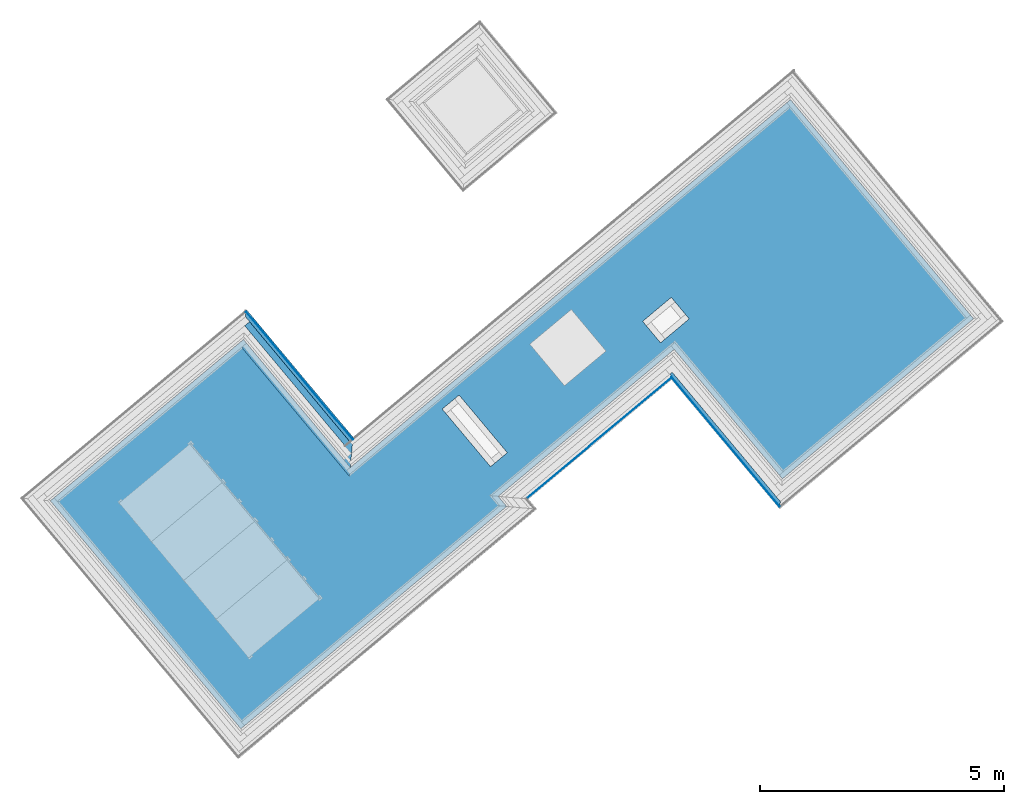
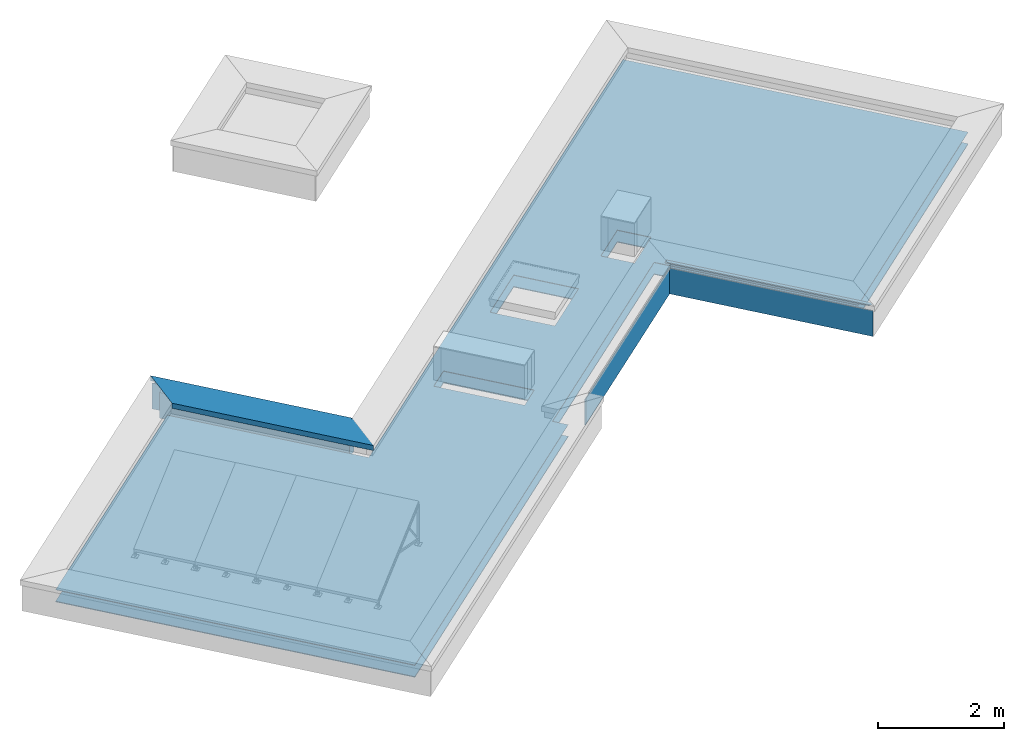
# One storey, part 4 of 13: 9 building element parts, 1 opening, 4 elements without a shape of their own.
"""IFC4 building model written with IfcOpenShell, lengths in metres."""

from ifc_helpers import new_model, entity, si_unit, converted_unit, derived_unit, direction, frame, origin_with_axes, place, context, subcontext, project, spatial, polygons, material, type_object, element, aggregate, save


model = new_model("IFC4")

# Units and contexts
model_context = context("Model", 3, precision=1e-05, world=origin_with_axes(), true_north=direction((0.0, 1.0)))
body_context = subcontext(model_context, "Body", "Model", "MODEL_VIEW")
ifc_project = project(units=[si_unit("LENGTHUNIT", "METRE"), si_unit("AREAUNIT", "SQUARE_METRE"), si_unit("VOLUMEUNIT", "CUBIC_METRE"), converted_unit("PLANEANGLEUNIT", "DEGREE", entity("IfcPlaneAngleMeasure", 0.0174532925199), si_unit("PLANEANGLEUNIT", "RADIAN"), dimensions=[0, 0, 0, 0, 0, 0, 0]), converted_unit("TIMEUNIT", "Year", entity("IfcTimeMeasure", 31556926.0), si_unit("TIMEUNIT", "SECOND"), dimensions=[0, 0, 1, 0, 0, 0, 0]), si_unit("MASSUNIT", "GRAM", prefix="KILO"), si_unit("THERMODYNAMICTEMPERATUREUNIT", "DEGREE_CELSIUS"), si_unit("LUMINOUSINTENSITYUNIT", "LUMEN"), si_unit("ENERGYUNIT", "JOULE", prefix="MEGA"), derived_unit("THERMALCONDUCTANCEUNIT", [(si_unit("POWERUNIT", "WATT"), 1), (si_unit("LENGTHUNIT", "METRE"), -1), (si_unit("THERMODYNAMICTEMPERATUREUNIT", "KELVIN"), -1)]), derived_unit("SPECIFICHEATCAPACITYUNIT", [(si_unit("ENERGYUNIT", "JOULE"), 1), (si_unit("MASSUNIT", "GRAM", prefix="KILO"), -1), (si_unit("THERMODYNAMICTEMPERATUREUNIT", "KELVIN"), -1)]), derived_unit("MASSDENSITYUNIT", [(si_unit("MASSUNIT", "GRAM", prefix="KILO"), 1), (si_unit("VOLUMEUNIT", "CUBIC_METRE"), -1)])], contexts=[model_context])

# Site, building, storey
site_placement = place(None, frame((-0.00153261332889, -0.00661245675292, 0.0), z_axis=(0.0, 0.0, 1.0), x_axis=(1.0, 0.0, 0.0)))
site = spatial("IfcSite", under=ifc_project, at=site_placement, Name="Gelände", CompositionType="ELEMENT")
building_placement = place(site_placement, origin_with_axes())
building = spatial("IfcBuilding", under=site, at=building_placement, Name="Gebäude", CompositionType="ELEMENT")
storey_placement = place(building_placement, frame((0.0, 0.0, 11.84), z_axis=(0.0, 0.0, 1.0), x_axis=(1.0, 0.0, 0.0)))
storey = spatial("IfcBuildingStorey", under=building, at=storey_placement, Name="DA", CompositionType="ELEMENT", Elevation=11.84)

# Wall, building element parts
wall_type = type_object("IfcWallType", Name="Individuelles Profil 574 x 610", PredefinedType="NOTDEFINED")
wall_1_placement = place(storey_placement, frame((-3.16803107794, 21.4249524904, 0.0), z_axis=(0.0, 0.0, 1.0), x_axis=(0.641209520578, -0.767365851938, 0.0)))
wall_1 = element("IfcWall", 1, at=wall_1_placement, inside=storey, type_object=wall_type, Name="Wand-005", PredefinedType="NOTDEFINED")
ifc_material_1 = material(Name="Zementputz")
building_element_part_1_placement = place(wall_1_placement, origin_with_axes())
building_element_part_1 = element("IfcBuildingElementPart", 2, at=building_element_part_1_placement, material=ifc_material_1, Name="Zementputz", PredefinedType="NOTDEFINED", context=body_context, shape_type="Tessellation", body=[
    polygons([(-0.199999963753, 0.214999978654, 0.498822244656), (-0.199999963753, 0.214999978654, 0.5), (3.2179191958, 0.214999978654, 0.5), (3.2179191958, 0.214999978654, 0.498822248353), (3.2179191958, 0.214999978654, 0.491006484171), (3.2179191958, 0.214999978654, 0.488695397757), (3.2179191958, 0.214999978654, 0.235000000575), (3.2179191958, 0.214999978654, 0.0), (-0.199999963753, 0.214999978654, 0.0), (-0.199999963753, 0.214999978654, 0.235000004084), (-0.199999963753, 0.214999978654, 0.488695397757), (-0.199999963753, 0.214999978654, 0.491006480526), (-0.199999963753, 0.199999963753, 0.5), (-0.199999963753, 0.199999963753, 0.498822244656), (3.2179191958, 0.199999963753, 0.5), (3.2179191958, 0.199999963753, 0.498822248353), (3.2179191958, 0.199999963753, 0.491006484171), (3.2179191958, 0.199999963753, 0.488695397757), (3.2179191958, 0.199999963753, 0.235000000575), (3.2179191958, 0.199999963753, 0.0), (-0.199999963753, 0.199999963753, 0.0), (-0.199999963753, 0.199999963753, 0.235000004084), (-0.199999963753, 0.199999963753, 0.488695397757), (-0.199999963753, 0.199999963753, 0.491006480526)], [[[1, 2, 3, 4, 5, 6, 7, 8, 9, 10, 11, 12]], [[13, 2, 1, 14]], [[2, 13, 15, 3]], [[4, 3, 15, 16]], [[4, 16, 17, 5]], [[5, 17, 18, 6]], [[6, 18, 19, 7]], [[7, 19, 20, 8]], [[21, 9, 8, 20]], [[22, 10, 9, 21]], [[23, 11, 10, 22]], [[24, 12, 11, 23]], [[14, 1, 12, 24]], [[13, 14, 24, 23, 22, 21, 20, 19, 18, 17, 16, 15]]], closed=True),
])
ifc_material_2 = material(Name="Vollholz")
building_element_part_2_placement = place(wall_1_placement, origin_with_axes())
building_element_part_2 = element("IfcBuildingElementPart", 3, at=building_element_part_2_placement, material=ifc_material_2, Name="Vollholz", PredefinedType="NOTDEFINED", context=body_context, shape_type="Tessellation", body=[
    polygons([(-0.130124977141, 0.189996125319, 0.584015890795), (-0.130124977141, 0.130124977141, 0.584015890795), (-0.189985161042, 0.189984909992, 0.586106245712), (-0.130124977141, 0.130124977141, 0.575979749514), (-0.130124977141, 0.190039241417, 0.575979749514), (3.22792303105, 0.130124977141, 0.584015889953), (3.22793424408, 0.189984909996, 0.586106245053), (3.22792303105, 0.189996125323, 0.584015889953), (3.22787991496, 0.190039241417, 0.575979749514), (3.22786865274, 0.19005050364, 0.573880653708), (3.22783682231, 0.190082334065, 0.567947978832), (3.22779417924, 0.190124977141, 0.560000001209), (-0.130124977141, 0.190124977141, 0.560000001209), (-0.130124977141, 0.190082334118, 0.567947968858), (-0.130124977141, 0.190050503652, 0.573880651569), (-0.130124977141, 0.130124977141, 0.567947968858), (-0.130124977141, 0.130124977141, 0.560000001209), (3.22779417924, 0.130124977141, 0.560000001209), (3.22783682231, 0.130124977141, 0.567947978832), (3.22786865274, 0.130124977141, 0.573880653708), (3.22787991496, 0.130124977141, 0.575979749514), (-0.130124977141, 0.130124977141, 0.573880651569)], [[[1, 2, 3]], [[4, 2, 1, 5]], [[3, 2, 6, 7]], [[5, 1, 3, 7, 8, 9, 10, 11, 12, 13, 14, 15]], [[16, 17, 18, 19, 20, 21, 6, 2, 4, 22]], [[22, 4, 5, 15]], [[6, 8, 7]], [[6, 21, 9, 8]], [[21, 20, 10, 9]], [[20, 19, 11, 10]], [[19, 18, 12, 11]], [[18, 17, 13, 12]], [[17, 16, 14, 13]], [[16, 22, 15, 14]]], closed=True),
])
ifc_material_3 = material(Name="EPS 1")
building_element_part_3_placement = place(wall_1_placement, origin_with_axes())
building_element_part_3 = element("IfcBuildingElementPart", 4, at=building_element_part_3_placement, material=ifc_material_3, Name="EPS 1", PredefinedType="NOTDEFINED", context=body_context, shape_type="Tessellation", body=[
    polygons([(2.16626361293e-09, 0.19999996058, 0.498822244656), (2.16626361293e-09, 0.19999996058, 0.5), (3.2179191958, 0.19999996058, 0.5), (3.2179191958, 0.19999996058, 0.498822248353), (3.2179191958, 0.19999996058, 0.491006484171), (3.2179191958, 0.19999996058, 0.488695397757), (3.2179191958, 0.19999996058, 0.235000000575), (3.2179191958, 0.19999996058, 0.0), (2.16626006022e-09, 0.19999996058, 0.0), (2.16626361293e-09, 0.19999996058, 0.235000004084), (2.16626361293e-09, 0.19999996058, 0.488695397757), (2.16626361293e-09, 0.19999996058, 0.491006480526), (2.16659046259e-09, -2.16659223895e-09, 0.5), (2.16659046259e-09, -2.16659223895e-09, 0.498822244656), (3.2179191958, -2.16658158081e-09, 0.5), (3.2179191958, -2.16659401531e-09, 0.498822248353), (3.2179191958, -2.16659401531e-09, 0.491006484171), (3.2179191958, -2.16659401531e-09, 0.488695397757), (3.2179191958, -2.16659401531e-09, 0.235000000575), (3.2179191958, -2.16659223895e-09, 0.0), (2.16659046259e-09, -2.16659223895e-09, 0.0), (2.16659046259e-09, -2.16659223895e-09, 0.235000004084), (2.16659046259e-09, -2.16659223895e-09, 0.488695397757), (2.16659046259e-09, -2.16659223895e-09, 0.491006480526)], [[[1, 2, 3, 4, 5, 6, 7, 8, 9, 10, 11, 12]], [[13, 2, 1, 14]], [[2, 13, 15, 3]], [[4, 3, 15, 16]], [[4, 16, 17, 5]], [[5, 17, 18, 6]], [[6, 18, 19, 7]], [[7, 19, 20, 8]], [[21, 9, 8, 20]], [[22, 10, 9, 21]], [[23, 11, 10, 22]], [[24, 12, 11, 23]], [[14, 1, 12, 24]], [[13, 14, 24, 23, 22, 21, 20, 19, 18, 17, 16, 15]]], closed=True),
])
ifc_material_4 = material(Name="Stahl")
building_element_part_4_placement = place(wall_1_placement, origin_with_axes())
building_element_part_4 = element("IfcBuildingElementPart", 5, at=building_element_part_4_placement, material=ifc_material_4, Name="Stahl", PredefinedType="NOTDEFINED", context=body_context, shape_type="Tessellation", body=[
    polygons([(0.332051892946, -0.332051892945, 0.491006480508), (0.332051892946, -0.332051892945, 0.498822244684), (0.332051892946, -0.330698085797, 0.498822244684), (0.332051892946, -0.330698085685, 0.49100648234), (0.332051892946, -0.332051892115, 0.489652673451), (3.74805649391, -0.332051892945, 0.489652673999), (3.74670268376, -0.332051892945, 0.491006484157), (3.74861724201, -0.332051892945, 0.491006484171), (3.74861724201, -0.332051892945, 0.498822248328), (3.74997104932, -0.332051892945, 0.498822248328), (3.74997104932, -0.332051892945, 0.5), (3.74861724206, -0.332051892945, 0.5), (3.74861724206, -0.332051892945, 0.509050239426), (3.74861724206, -0.332051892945, 0.511361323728), (3.74861724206, -0.332051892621, 0.519224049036), (3.74861724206, -0.332051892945, 0.559999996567), (3.74861724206, -0.332051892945, 0.567947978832), (3.74861724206, -0.332051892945, 0.573880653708), (3.74861724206, -0.332051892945, 0.575979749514), (3.74861724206, -0.332051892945, 0.584015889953), (3.74861724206, -0.332051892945, 0.586106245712), (3.74861724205, -0.332051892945, 0.587937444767), (3.71254963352, -0.332051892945, 0.58924311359), (0.332051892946, -0.332051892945, 0.589243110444), (0.332051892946, -0.332051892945, 0.587937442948), (0.332051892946, -0.332051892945, 0.586106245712), (0.332051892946, -0.332051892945, 0.584015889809), (0.332051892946, -0.332051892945, 0.575979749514), (0.332051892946, -0.332051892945, 0.573880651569), (0.332051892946, -0.332051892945, 0.567947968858), (0.332051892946, -0.332051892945, 0.55999999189), (0.332051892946, -0.332051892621, 0.519224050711), (0.332051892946, -0.332051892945, 0.51136132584), (0.332051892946, -0.332051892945, 0.509050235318), (0.332051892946, -0.332051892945, 0.499999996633), (0.332051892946, -0.330698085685, 0.499999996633), (0.332051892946, -0.330698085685, 0.509050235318), (0.332051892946, -0.330698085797, 0.51136132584), (0.332051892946, -0.330698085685, 0.519224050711), (0.332051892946, -0.330698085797, 0.55999999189), (0.332051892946, -0.330698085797, 0.567947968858), (0.332051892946, -0.330698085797, 0.573880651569), (0.332051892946, -0.330698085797, 0.575979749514), (0.332051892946, -0.330698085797, 0.584015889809), (0.332051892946, -0.330698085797, 0.586106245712), (0.332051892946, -0.330698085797, 0.587937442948), (3.74861724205, -0.330698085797, 0.587937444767), (3.74861724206, -0.330698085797, 0.586106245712), (3.74861724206, -0.330698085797, 0.584015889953), (3.74861724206, -0.330698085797, 0.575979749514), (3.74861724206, -0.330698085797, 0.573880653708), (3.74861724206, -0.330698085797, 0.567947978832), (3.74861724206, -0.330698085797, 0.559999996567), (3.74861724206, -0.330698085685, 0.519224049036), (3.74861724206, -0.330698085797, 0.511361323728), (3.74861724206, -0.330698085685, 0.509050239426), (3.74861724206, -0.330698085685, 0.5), (3.74997104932, -0.330698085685, 0.5), (3.74997104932, -0.330698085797, 0.498822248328), (3.74861724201, -0.330698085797, 0.498822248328), (3.74861724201, -0.330698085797, 0.491006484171), (3.74670268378, -0.330698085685, 0.491006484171), (0.332051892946, -0.328783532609, 0.491006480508), (0.332051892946, -0.330137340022, 0.489652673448), (0.33109460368, -0.331094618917, 0.4886954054), (3.74901377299, -0.331094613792, 0.488695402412), (3.74670268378, -0.328783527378, 0.491006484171), (3.17864266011, 0.239276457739, 0.608570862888), (3.17864266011, 0.20184970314, 0.608570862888), (-0.201849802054, 0.201849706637, 0.608570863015), (3.17776635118, 0.202730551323, 0.608602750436), (3.17641890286, 0.202730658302, 0.608602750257), (3.1764188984, 0.241500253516, 0.610006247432), (-0.241500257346, 0.241500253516, 0.610006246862), (-0.20273064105, 0.202730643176, 0.608602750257), (0.332051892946, -0.294630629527, 0.589243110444), (-0.201849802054, 0.239276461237, 0.608570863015), (0.330698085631, -0.330698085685, 0.491006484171), (3.73979723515, -0.323792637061, 0.497911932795), (3.7408014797, -0.32288233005, 0.498822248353), (0.322882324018, -0.32288233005, 0.498822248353), (0.330698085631, -0.328783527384, 0.491006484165), (0.323792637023, -0.321878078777, 0.497911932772), (3.73979723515, -0.321878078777, 0.497911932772), (3.17788831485, 0.23992751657, 0.608598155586), (3.17788614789, 0.238040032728, 0.608598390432), (3.17776635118, 0.2029185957, 0.608602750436), (3.17641890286, 0.240097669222, 0.608602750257), (3.17641890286, 0.240152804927, 0.608602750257), (3.17641890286, 0.241500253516, 0.608602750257), (-0.24015053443, 0.241500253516, 0.573880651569), (-0.240150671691, 0.241500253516, 0.575979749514), (-0.240151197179, 0.241500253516, 0.584015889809), (-0.240151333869, 0.241500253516, 0.586106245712), (-0.240151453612, 0.241500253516, 0.587937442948), (-0.240152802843, 0.241500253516, 0.608570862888), (-0.240152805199, 0.241500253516, 0.608602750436), (-0.20273064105, 0.241500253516, 0.608602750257), (3.17641890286, 0.241500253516, 0.608570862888), (3.17641890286, 0.241500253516, 0.587938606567), (3.17641890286, 0.241500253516, 0.586106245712), (3.17641890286, 0.241500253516, 0.584015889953), (3.17641890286, 0.241500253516, 0.575979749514), (3.17641890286, 0.241500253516, 0.573880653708), (3.17641890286, 0.241500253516, 0.567947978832), (3.17641890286, 0.241500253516, 0.559999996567), (3.17641890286, 0.241500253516, 0.519224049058), (3.17641890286, 0.241500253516, 0.511361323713), (3.17641890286, 0.241500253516, 0.510007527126), (-0.239585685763, 0.241500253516, 0.510007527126), (-0.238231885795, 0.241500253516, 0.511361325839), (-0.240146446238, 0.241500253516, 0.51136132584), (-0.240146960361, 0.241500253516, 0.519224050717), (-0.240149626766, 0.241500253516, 0.55999999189), (-0.240150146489, 0.241500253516, 0.567947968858), (-0.20273064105, 0.240152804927, 0.608602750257), (3.17641890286, 0.240152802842, 0.608570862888), (-0.24015053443, 0.24015053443, 0.573880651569), (-0.240150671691, 0.240150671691, 0.575979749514), (-0.240151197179, 0.240151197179, 0.584015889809), (-0.240151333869, 0.240151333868, 0.586106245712), (-0.240151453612, 0.240151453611, 0.587937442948), (-0.240152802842, 0.240152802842, 0.608570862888), (-0.240152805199, 0.240152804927, 0.608602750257), (3.17641890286, 0.240151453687, 0.587938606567), (3.17641890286, 0.240151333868, 0.586106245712), (3.17641890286, 0.240151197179, 0.584015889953), (3.17641890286, 0.240150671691, 0.575979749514), (3.17641890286, 0.24015053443, 0.573880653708), (3.17641890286, 0.240150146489, 0.567947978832), (3.17641890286, 0.240149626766, 0.559999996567), (3.17641890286, 0.240146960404, 0.519224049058), (3.17641890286, 0.240146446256, 0.51136132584), (3.17641890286, 0.238231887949, 0.51136132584), (3.17641890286, 0.239585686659, 0.510007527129), (-0.240542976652, 0.240542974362, 0.509050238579), (3.17737617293, 0.240542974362, 0.509050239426), (-0.238231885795, 0.238231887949, 0.51136132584), (-0.238231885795, 0.240146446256, 0.511361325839), (-0.240146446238, 0.240146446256, 0.51136132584), (-0.240146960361, 0.240146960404, 0.519224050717), (-0.240149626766, 0.240149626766, 0.55999999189), (-0.240150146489, 0.240150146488, 0.567947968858), (-0.231373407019, 0.231373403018, 0.518219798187), (3.17777271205, 0.238231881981, 0.51136132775), (3.18463118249, 0.231373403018, 0.518219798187), (3.17777271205, 0.240146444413, 0.51136132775), (-0.231373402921, 0.233287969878, 0.518219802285), (-0.232283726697, 0.232283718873, 0.51922405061), (3.18563543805, 0.232283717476, 0.519224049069)], [[[1, 2, 3, 4]], [[1, 5, 6, 7, 8, 9, 10, 11, 12, 13, 14, 15, 16, 17, 18, 19, 20, 21, 22, 23, 24, 25, 26, 27, 28, 29, 30, 31, 32, 33, 34, 35, 2]], [[35, 36, 3, 2]], [[4, 3, 36, 37, 38, 39, 40, 41, 42, 43, 44, 45, 46, 47, 48, 49, 50, 51, 52, 53, 54, 55, 56, 57, 58, 59, 60, 61, 62]], [[5, 1, 4, 63, 64]], [[5, 65, 66, 6]], [[7, 6, 66, 67, 62]], [[8, 7, 62, 61]], [[9, 8, 61, 60]], [[10, 9, 60, 59]], [[11, 10, 59, 58]], [[12, 11, 58, 57]], [[13, 12, 57, 56]], [[14, 13, 56, 55]], [[15, 14, 55, 54]], [[16, 15, 54, 53]], [[17, 16, 53, 52]], [[18, 17, 52, 51]], [[19, 18, 51, 50]], [[20, 19, 50, 49]], [[21, 20, 49, 48]], [[22, 21, 48, 47]], [[22, 47, 68, 69, 23]], [[70, 24, 23, 69, 71, 72, 73, 74, 75]], [[25, 24, 76, 46]], [[26, 25, 46, 45]], [[27, 26, 45, 44]], [[28, 27, 44, 43]], [[42, 29, 28, 43]], [[41, 30, 29, 42]], [[31, 30, 41, 40]], [[31, 40, 39, 32]], [[38, 33, 32, 39]], [[37, 34, 33, 38]], [[36, 35, 34, 37]], [[46, 76, 77, 68, 47]], [[78, 4, 62, 79, 80, 81]], [[4, 78, 82, 63]], [[65, 64, 63, 82, 83, 84, 67, 66]], [[65, 5, 64]], [[79, 62, 67, 84]], [[71, 69, 68, 85, 86, 87]], [[76, 24, 70, 77]], [[72, 71, 87, 86, 85, 88]], [[72, 88, 89, 90, 73]], [[91, 92, 93, 94, 95, 96, 97, 98, 74, 73, 90, 99, 100, 101, 102, 103, 104, 105, 106, 107, 108, 109, 110, 111, 112, 113, 114, 115]], [[75, 74, 98, 116]], [[70, 75, 116, 77]], [[77, 116, 89, 88, 85, 68]], [[80, 79, 84]], [[83, 81, 80, 84]], [[82, 78, 81, 83]], [[89, 117, 99, 90]], [[118, 119, 92, 91]], [[92, 119, 120, 93]], [[120, 121, 94, 93]], [[121, 122, 95, 94]], [[122, 123, 96, 95]], [[96, 123, 124, 97]], [[97, 124, 116, 98]], [[125, 100, 99, 117]], [[126, 101, 100, 125]], [[126, 127, 102, 101]], [[127, 128, 103, 102]], [[129, 104, 103, 128]], [[129, 130, 105, 104]], [[130, 131, 106, 105]], [[131, 132, 107, 106]], [[133, 108, 107, 132]], [[134, 135, 109, 108, 133]], [[136, 110, 109, 137]], [[136, 138, 139, 111, 110]], [[139, 140, 112, 111]], [[140, 141, 113, 112]], [[141, 142, 114, 113]], [[142, 143, 115, 114]], [[143, 118, 91, 115]], [[141, 140, 139, 133, 132, 131, 130, 129, 128, 127, 126, 125, 117, 89, 116, 124, 123, 122, 121, 120, 119, 118, 143, 142]], [[144, 138, 136, 137, 135, 134, 145, 146]], [[135, 137, 109]], [[145, 134, 133, 147]], [[138, 144, 148, 139]], [[148, 149, 150, 147, 133, 139]], [[145, 147, 150, 146]], [[149, 144, 146, 150]], [[144, 149, 148]]], closed=True),
])
aggregate(wall_1, [building_element_part_1, building_element_part_2, building_element_part_3, building_element_part_4])

# Roof, opening, building element parts
roof_type = type_object("IfcRoofType", Name="Flachdach Kies Dachaufbau 360", PredefinedType="NOTDEFINED")
roof_placement = place(storey_placement, frame((-7.153028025, 17.8344643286, 0.0), z_axis=(0.0, 0.0, 1.0), x_axis=(0.76736582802, 0.641209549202, 0.0)))
roof = element("IfcRoof", 6, at=roof_placement, inside=storey, type_object=roof_type, Name="Dach-002", PredefinedType="NOTDEFINED")
opening_placement = place(roof_placement, frame((10.1581112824, -3.84416247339, 0.36), z_axis=(0.0, 0.0, 1.0), x_axis=(1.0, 0.0, 0.0)))
element("IfcOpeningElement", 7, at=opening_placement, cuts=roof, Name="DFenst-002", context=body_context, identifier="Reference", shape_type="Tessellation", body=[
    polygons([(-0.549139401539, -1.0998264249, 0.0), (0.549034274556, -1.09987890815, 0.0), (0.549034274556, -1.09987890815, 0.000999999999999), (-0.549139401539, -1.0998264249, 0.000999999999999), (-0.549139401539, -1.0998264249, -0.361), (0.549034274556, -1.09987890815, -0.361), (0.549086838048, -2.62416250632e-05, 0.0), (0.549086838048, -2.62416250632e-05, 0.000999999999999), (-0.549086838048, 2.62416250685e-05, 0.000999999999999), (-0.549086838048, 2.62416250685e-05, 0.0), (-0.549086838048, 2.62416250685e-05, -0.361), (0.549086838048, -2.62416250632e-05, -0.361)], [[[1, 2, 3, 4]], [[2, 1, 5, 6]], [[2, 7, 8, 3]], [[3, 8, 9, 4]], [[10, 1, 4, 9]], [[1, 10, 11, 5]], [[5, 11, 12, 6]], [[7, 2, 6, 12]], [[7, 10, 9, 8]], [[10, 7, 12, 11]]], closed=True),
])
ifc_material_5 = material(Name="Folie")
building_element_part_5_placement = place(roof_placement, origin_with_axes())
building_element_part_5 = element("IfcBuildingElementPart", 8, at=building_element_part_5_placement, material=ifc_material_5, Name="Folie", PredefinedType="NOTDEFINED", context=body_context, shape_type="Tessellation", body=[
    polygons([(7.1069283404, -5.81885664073, 0.235), (7.10697326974, -6.08743675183, 0.235), (-1.72136707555e-07, -6.09206489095, 0.235), (0.0, 0.0, 0.235), (5.16009951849, 0.0, 0.235), (5.16009951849, -3.41791933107, 0.235), (16.9223077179, -3.41791976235, 0.235), (16.9223296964, -9.27248425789, 0.235), (11.8084432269, -9.2788160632, 0.235), (11.8066322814, -5.82152738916, 0.235), (7.37613453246, -5.24986721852, 0.235), (7.8222728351, -5.24986723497, 0.235), (7.82227289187, -3.71028700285, 0.235), (7.37343532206, -3.70871416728, 0.235), (11.6804973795, -5.53633381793, 0.235), (12.4437771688, -5.5363338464, 0.235), (12.4449024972, -4.96363244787, 0.235), (11.6804974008, -4.96363241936, 0.235), (9.60902444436, -3.84413623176, 0.235), (9.60897188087, -4.94398889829, 0.235), (10.707145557, -4.94404138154, 0.235), (10.7071981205, -3.84418871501, 0.235), (7.1069283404, -5.81885664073, 0.24), (7.10697326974, -6.08743675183, 0.24), (-1.72136707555e-07, -6.09206489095, 0.24), (0.0, 0.0, 0.24), (5.16009951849, 0.0, 0.24), (5.16009951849, -3.41791933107, 0.24), (16.9223077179, -3.41791976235, 0.24), (16.9223296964, -9.27248425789, 0.24), (11.8084432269, -9.2788160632, 0.24), (11.8066322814, -5.82152738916, 0.24), (7.37613453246, -5.24986721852, 0.24), (7.8222728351, -5.24986723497, 0.24), (7.82227289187, -3.71028700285, 0.24), (7.37343532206, -3.70871416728, 0.24), (11.6804973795, -5.53633381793, 0.24), (12.4437771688, -5.5363338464, 0.24), (12.4449024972, -4.96363244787, 0.24), (11.6804974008, -4.96363241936, 0.24), (9.60902444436, -3.84413623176, 0.24), (9.60897188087, -4.94398889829, 0.24), (10.707145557, -4.94404138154, 0.24), (10.7071981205, -3.84418871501, 0.24)], [[[1, 2, 3, 4, 5, 6, 7, 8, 9, 10], [11, 12, 13, 14], [15, 16, 17, 18], [19, 20, 21, 22]], [[23, 24, 2, 1]], [[24, 25, 3, 2]], [[25, 26, 4, 3]], [[26, 27, 5, 4]], [[27, 28, 6, 5]], [[28, 29, 7, 6]], [[29, 30, 8, 7]], [[30, 31, 9, 8]], [[31, 32, 10, 9]], [[32, 23, 1, 10]], [[33, 34, 12, 11]], [[34, 35, 13, 12]], [[35, 36, 14, 13]], [[36, 33, 11, 14]], [[37, 38, 16, 15]], [[38, 39, 17, 16]], [[39, 40, 18, 17]], [[40, 37, 15, 18]], [[41, 42, 20, 19]], [[42, 43, 21, 20]], [[43, 44, 22, 21]], [[44, 41, 19, 22]], [[29, 28, 27, 26, 25, 24, 23, 32, 31, 30], [35, 34, 33, 36], [39, 38, 37, 40], [41, 44, 43, 42]]], closed=True),
])
building_element_part_6_placement = place(roof_placement, origin_with_axes())
building_element_part_6 = element("IfcBuildingElementPart", 9, at=building_element_part_6_placement, material=ifc_material_5, Name="Folie", PredefinedType="NOTDEFINED", context=body_context, shape_type="Tessellation", body=[
    polygons([(7.1069283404, -5.81885664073, 0.0), (7.10697326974, -6.08743675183, 0.0), (-1.72136707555e-07, -6.09206489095, 0.0), (0.0, 0.0, 0.0), (5.16009951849, 0.0, 0.0), (5.16009951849, -3.41791933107, 0.0), (16.9223077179, -3.41791976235, 0.0), (16.9223296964, -9.27248425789, 0.0), (11.8084432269, -9.2788160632, 0.0), (11.8066322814, -5.82152738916, 0.0), (7.37613453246, -5.24986721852, 0.0), (7.8222728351, -5.24986723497, 0.0), (7.82227289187, -3.71028700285, 0.0), (7.37343532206, -3.70871416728, 0.0), (11.6804973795, -5.53633381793, 0.0), (12.4437771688, -5.5363338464, 0.0), (12.4449024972, -4.96363244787, 0.0), (11.6804974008, -4.96363241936, 0.0), (9.60902444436, -3.84413623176, 0.0), (9.60897188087, -4.94398889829, 0.0), (10.707145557, -4.94404138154, 0.0), (10.7071981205, -3.84418871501, 0.0), (7.1069283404, -5.81885664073, 0.015), (7.10697326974, -6.08743675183, 0.015), (-1.72136707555e-07, -6.09206489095, 0.015), (0.0, 0.0, 0.015), (5.16009951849, 0.0, 0.015), (5.16009951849, -3.41791933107, 0.015), (16.9223077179, -3.41791976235, 0.015), (16.9223296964, -9.27248425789, 0.015), (11.8084432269, -9.2788160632, 0.015), (11.8066322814, -5.82152738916, 0.015), (7.37613453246, -5.24986721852, 0.015), (7.8222728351, -5.24986723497, 0.015), (7.82227289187, -3.71028700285, 0.015), (7.37343532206, -3.70871416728, 0.015), (11.6804973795, -5.53633381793, 0.015), (12.4437771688, -5.5363338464, 0.015), (12.4449024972, -4.96363244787, 0.015), (11.6804974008, -4.96363241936, 0.015), (9.60902444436, -3.84413623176, 0.015), (9.60897188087, -4.94398889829, 0.015), (10.707145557, -4.94404138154, 0.015), (10.7071981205, -3.84418871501, 0.015)], [[[1, 2, 3, 4, 5, 6, 7, 8, 9, 10], [11, 12, 13, 14], [15, 16, 17, 18], [19, 20, 21, 22]], [[1, 23, 24, 2]], [[2, 24, 25, 3]], [[3, 25, 26, 4]], [[4, 26, 27, 5]], [[5, 27, 28, 6]], [[6, 28, 29, 7]], [[7, 29, 30, 8]], [[8, 30, 31, 9]], [[9, 31, 32, 10]], [[10, 32, 23, 1]], [[11, 33, 34, 12]], [[12, 34, 35, 13]], [[13, 35, 36, 14]], [[14, 36, 33, 11]], [[15, 37, 38, 16]], [[16, 38, 39, 17]], [[17, 39, 40, 18]], [[18, 40, 37, 15]], [[41, 42, 20, 19]], [[42, 43, 21, 20]], [[43, 44, 22, 21]], [[44, 41, 19, 22]], [[29, 28, 27, 26, 25, 24, 23, 32, 31, 30], [35, 34, 33, 36], [39, 38, 37, 40], [41, 44, 43, 42]]], closed=True),
])
aggregate(roof, [building_element_part_5, building_element_part_6])

# Wall, building element parts
wall_2_placement = place(storey_placement, frame((5.6143951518, 20.6557540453, 0.0), z_axis=(0.0, 0.0, 1.0), x_axis=(0.641709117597, -0.766948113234, 0.0)))
wall_2 = element("IfcWall", 10, at=wall_2_placement, inside=storey, type_object=wall_type, Name="Wand-004", PredefinedType="NOTDEFINED")
building_element_part_7_placement = place(wall_2_placement, origin_with_axes())
building_element_part_7 = element("IfcBuildingElementPart", 11, at=building_element_part_7_placement, material=ifc_material_2, Name="Vollholz", PredefinedType="NOTDEFINED", context=body_context, shape_type="Tessellation", body=[
    polygons([(0.129855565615, -0.190124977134, 0.560000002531), (0.129940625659, -0.130124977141, 0.560000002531), (3.58755698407, -0.130124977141, 0.560000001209), (3.58755698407, -0.190124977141, 0.560000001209), (0.129855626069, -0.190082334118, 0.567947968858), (0.129940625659, -0.130124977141, 0.567947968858), (0.129940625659, -0.130124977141, 0.573880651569), (0.129940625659, -0.130124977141, 0.575979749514), (0.129940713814, -0.130124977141, 0.584015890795), (3.58755698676, -0.130124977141, 0.584015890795), (3.58755698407, -0.130124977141, 0.575979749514), (3.58755698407, -0.130124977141, 0.573880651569), (3.58755698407, -0.130124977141, 0.567947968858), (3.58755698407, -0.190082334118, 0.567947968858), (3.58755698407, -0.190050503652, 0.573880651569), (3.58755698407, -0.190039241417, 0.575979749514), (3.58755698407, -0.189996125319, 0.584015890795), (3.64741691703, -0.189984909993, 0.586106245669), (0.189715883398, -0.189984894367, 0.586106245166), (0.129855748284, -0.189996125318, 0.584015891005), (0.12985568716, -0.190039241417, 0.575979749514), (0.129855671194, -0.190050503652, 0.573880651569)], [[[1, 2, 3, 4]], [[1, 5, 6, 2]], [[2, 6, 7, 8, 9, 10, 11, 12, 13, 3]], [[14, 4, 3, 13]], [[5, 1, 4, 14, 15, 16, 17, 18, 19, 20, 21, 22]], [[5, 22, 7, 6]], [[22, 21, 8, 7]], [[21, 20, 9, 8]], [[19, 18, 10, 9]], [[17, 16, 11, 10]], [[16, 15, 12, 11]], [[15, 14, 13, 12]], [[18, 17, 10]], [[20, 19, 9]]], closed=True),
])
building_element_part_8_placement = place(wall_2_placement, origin_with_axes())
building_element_part_8 = element("IfcBuildingElementPart", 12, at=building_element_part_8_placement, material=ifc_material_1, Name="Zementputz", PredefinedType="NOTDEFINED", context=body_context, shape_type="Tessellation", body=[
    polygons([(0.199716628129, -0.199999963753, 0.498822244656), (0.199716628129, -0.199999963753, 0.5), (3.65743197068, -0.199999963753, 0.5), (3.65743197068, -0.199999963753, 0.498822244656), (3.65743197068, -0.199999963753, 0.491006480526), (3.65743197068, -0.199999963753, 0.488695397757), (3.65743197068, -0.199999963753, 0.235000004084), (3.65743197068, -0.199999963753, 0.0), (0.199716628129, -0.199999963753, 0.0), (0.199716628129, -0.199999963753, 0.235000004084), (0.199716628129, -0.199999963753, 0.488695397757), (0.199716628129, -0.199999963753, 0.491006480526), (0.199695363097, -0.214999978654, 0.5), (0.199695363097, -0.214999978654, 0.498822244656), (3.65743197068, -0.214999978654, 0.5), (3.65743197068, -0.214999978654, 0.498822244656), (3.65743197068, -0.214999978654, 0.491006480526), (3.65743197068, -0.214999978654, 0.488695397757), (3.65743197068, -0.214999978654, 0.235000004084), (3.65743197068, -0.214999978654, 0.0), (0.199695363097, -0.214999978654, 0.0), (0.199695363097, -0.214999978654, 0.235000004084), (0.199695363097, -0.214999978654, 0.488695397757), (0.199695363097, -0.214999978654, 0.491006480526)], [[[1, 2, 3, 4, 5, 6, 7, 8, 9, 10, 11, 12]], [[13, 2, 1, 14]], [[2, 13, 15, 3]], [[16, 4, 3, 15]], [[5, 4, 16, 17]], [[6, 5, 17, 18]], [[18, 19, 7, 6]], [[19, 20, 8, 7]], [[21, 9, 8, 20]], [[22, 10, 9, 21]], [[10, 22, 23, 11]], [[11, 23, 24, 12]], [[14, 1, 12, 24]], [[13, 14, 24, 23, 22, 21, 20, 19, 18, 17, 16, 15]]], closed=True),
])
aggregate(wall_2, [building_element_part_7, building_element_part_8])

# Wall, building element part
wall_3_placement = place(storey_placement, frame((2.3134110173, 17.9017514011, 0.0), z_axis=(0.0, 0.0, 1.0), x_axis=(0.76785707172, 0.640621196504, 0.0)))
wall_3 = element("IfcWall", 13, at=wall_3_placement, inside=storey, type_object=wall_type, Name="Wand-004", PredefinedType="NOTDEFINED")
building_element_part_9_placement = place(wall_3_placement, origin_with_axes())
building_element_part_9 = element("IfcBuildingElementPart", 14, at=building_element_part_9_placement, material=ifc_material_1, Name="Zementputz", PredefinedType="NOTDEFINED", context=body_context, shape_type="Tessellation", body=[
    polygons([(4.08426108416, -0.214999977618, 0.235000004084), (4.08426108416, -0.214999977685, 0.0), (4.08423981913, -0.199999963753, 0.0), (4.08423981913, -0.199999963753, 0.235000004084), (0.214999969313, -0.214999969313, 0.50000001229), (0.214999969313, -0.214999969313, 0.0), (4.08426108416, -0.214999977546, 0.488695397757), (4.08426108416, -0.214999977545, 0.491006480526), (4.08426108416, -0.214999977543, 0.498822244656), (4.08426108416, -0.214999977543, 0.5), (0.199999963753, -0.199999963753, 0.0), (0.199999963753, -0.199999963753, 0.5), (4.08423981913, -0.199999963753, 0.5), (4.08423981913, -0.199999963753, 0.498822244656), (4.08423981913, -0.199999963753, 0.491006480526), (4.08423981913, -0.199999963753, 0.488695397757)], [[[1, 2, 3, 4]], [[5, 6, 2, 1, 7, 8, 9, 10]], [[6, 11, 3, 2]], [[11, 12, 13, 14, 15, 16, 4, 3]], [[7, 1, 4, 16]], [[6, 5, 12, 11]], [[8, 7, 16, 15]], [[9, 8, 15, 14]], [[13, 10, 9, 14]], [[12, 5, 10, 13]]], closed=True),
])
aggregate(wall_3, [building_element_part_9])

save(model, "model.ifc")
